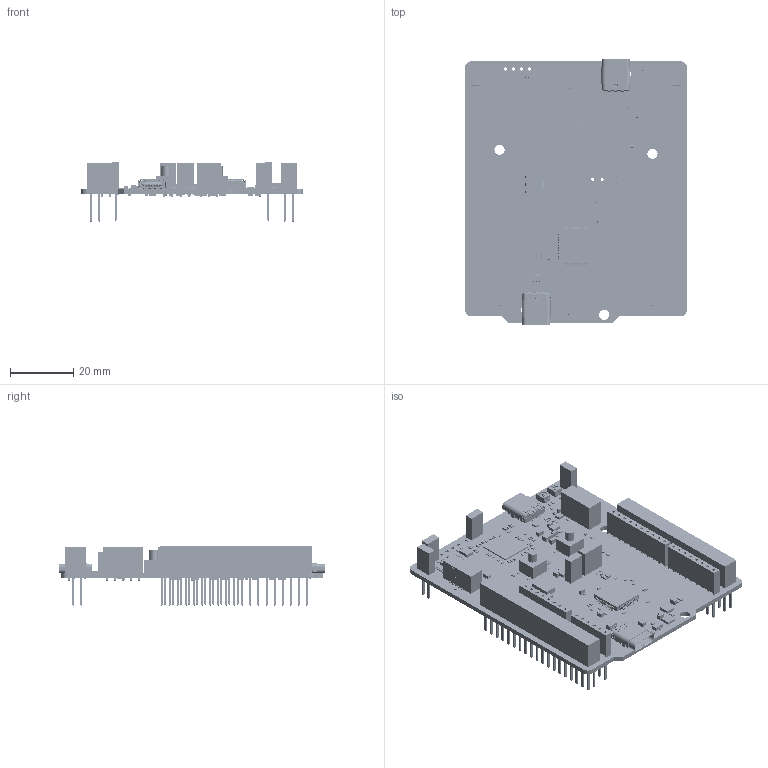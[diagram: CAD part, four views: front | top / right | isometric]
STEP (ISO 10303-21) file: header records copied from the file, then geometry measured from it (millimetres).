
FILE_DESCRIPTION(('Open CASCADE Model'),'2;1');
FILE_NAME('Open CASCADE Shape Model','2024-08-13T15:29:27',('Author'),( 'Open CASCADE'),'Open CASCADE STEP processor 7.5','Open CASCADE 7.5' ,'Unknown');
FILE_SCHEMA(('AUTOMOTIVE_DESIGN { 1 0 10303 214 1 1 1 1 }'));
Length unit declared in the file: millimetre
Products named in the file (415): PCB; Board; Open CASCADE STEP translator 7.5 1.1.1; R66; R0402; 6905070848; Extruded; U20; User Library-QFN12_3x3x0_8; 6904762800; T1; SOT23-3_TO-236AB; 6905848848; R57; R59; R60; 6905071168; R61; R58; LD6; LED_0603_GREEN; User Library-LED_0603_G_Pocket002; User Library-LED_0603_G_Pad004; User Library-LED_0603_G_Fillet; User Library-LED_0603_G_Pocket001; User Library-LED_0603_G_Pad; 6905845168; 6905844928; 6905844688; 6905844528; JP4; TSW-102-07-G-S; _TSW-102-07-G-S_body; _T-1S6-07-TSW-1-07-2-S; 6905072448; SB25; R0603; 6905056128; R51; R53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
Assembly tree (980 placements, depth 4):
  PCB
    Board
      Open CASCADE STEP translator 7.5 1.1.1
    R66
      R0402
      6905070848
        Extruded
    U20
      User Library-QFN12_3x3x0_8
      6904762800
        Extruded
    T1
      SOT23-3_TO-236AB
      6905848848
        Extruded
    R57
      R0402
      6905070848
        Extruded
    R59
      R0402
      6905070848
        Extruded
    R60
      R0402
      6905071168
        Extruded
    R61
      R0402
      6905070848
        Extruded
    R58
      R0402
      6905070848
        Extruded
    LD6
      LED_0603_GREEN
        User Library-LED_0603_G_Pocket002
        User Library-LED_0603_G_Pad004
        User Library-LED_0603_G_Fillet
        User Library-LED_0603_G_Pocket001
        User Library-LED_0603_G_Pad
      6905845168  x2
        Extruded
      6905844928  x2
        Extruded
      6905844688
        Extruded
      6905844528
        Extruded
    JP4
      TSW-102-07-G-S
        _TSW-102-07-G-S_body
        _T-1S6-07-TSW-1-07-2-S
      6905072448
        Extruded
    SB25
      R0603
      6905056128
        Extruded
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Bounding box: 70 x 84.21 x 18.67 mm (x, y, z)
Volume: 19411.9 mm3; surface area: 35185.2 mm2
Topology: 919 solids, 958 shells, 40270 faces, 97920 edges, 58032 vertices
Faces by surface type: plane 20346, cylinder 9717, bspline 5842, sphere 3153, torus 650, revolution 410, cone 152
Full cylindrical faces by diameter (mm): 0.26 x1, 0.3 x1, 0.4 x4, 0.5 x1, 0.65 x2, 0.8 x1, 0.97 x2, 1 x139, 1.19 x2, 3.2 x3
Entity records: 385000 total; most frequent: CARTESIAN_POINT 71629, ORIENTED_EDGE 52672, DIRECTION 50540, EDGE_CURVE 26338, LINE 22144, VECTOR 22144, VERTEX_POINT 16827, AXIS2_PLACEMENT_3D 14193
